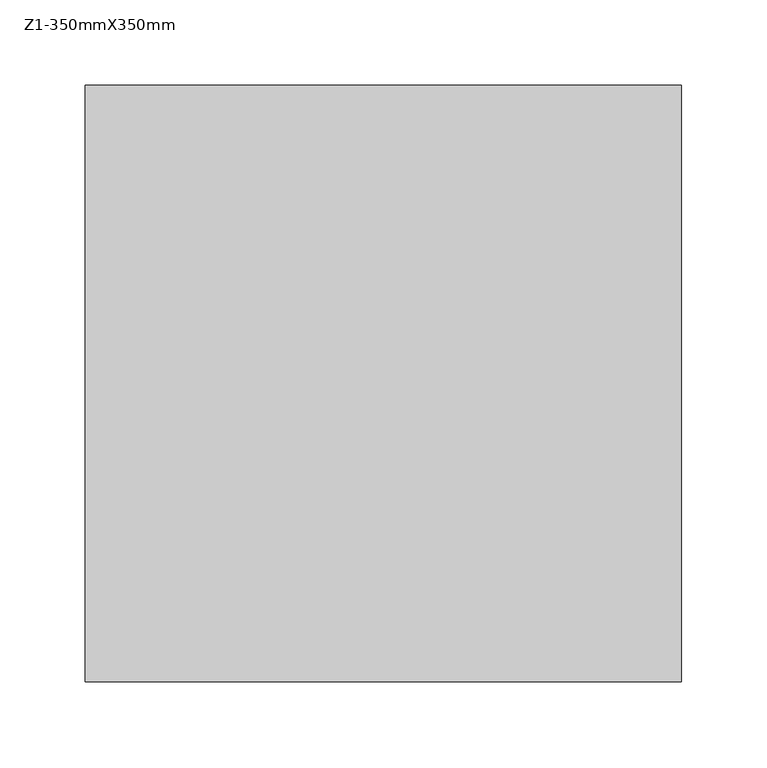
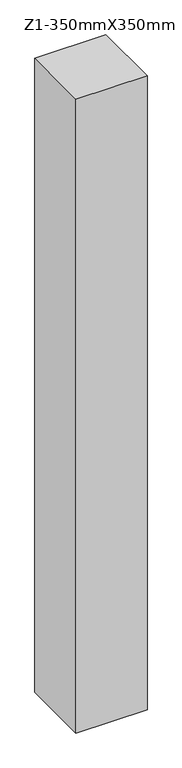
"""IFC4 building model written with IfcOpenShell, lengths in millimetres: column geometry, 混凝土 - 矩形 - 柱 : Z1-350mmX350mm."""

from ifc_helpers import new_model, si_unit, frame, origin, place, context, project, spatial, polyline, outline, extrude, source, transform, mapped, element, save


def z1_350mmx350mm_13159b50(model_context):
    return source(origin(), model_context, "Body", "SweptSolid", [
        extrude(outline(polyline([(175.0, -175.0), (-175.0, -175.0), (-175.0, 175.0), (175.0, 175.0), (175.0, -175.0)])), frame((0.0, 0.0, 7200.0), z_axis=(0.0, 0.0, 1.0), x_axis=(1.0, 0.0, 0.0)), (0.0, 0.0, 1.0), 3300.0),
    ])


if __name__ == "__main__":
    model = new_model("IFC4")
    model_context = context("Model", 3, world=origin())
    ifc_project = project(units=[si_unit("LENGTHUNIT", "METRE", prefix="MILLI")], contexts=[model_context])
    site = spatial("IfcSite", under=ifc_project)
    building = spatial("IfcBuilding", under=site)
    placement = place(None, origin())
    z1_350mmx350mm_shape = z1_350mmx350mm_13159b50(model_context)
    element("IfcColumn", 1, ObjectType="混凝土 - 矩形 - 柱 : Z1-350mmX350mm", at=placement, inside=building, context=model_context, shape_type="MappedRepresentation", body=[
        mapped(z1_350mmx350mm_shape, transform((0.0, 0.0, 0.0), x_axis=(1.0, 0.0, 0.0), y_axis=(0.0, 1.0, 0.0), z_axis=(0.0, 0.0, 1.0))),
    ])
    save(model, "model.ifc")
